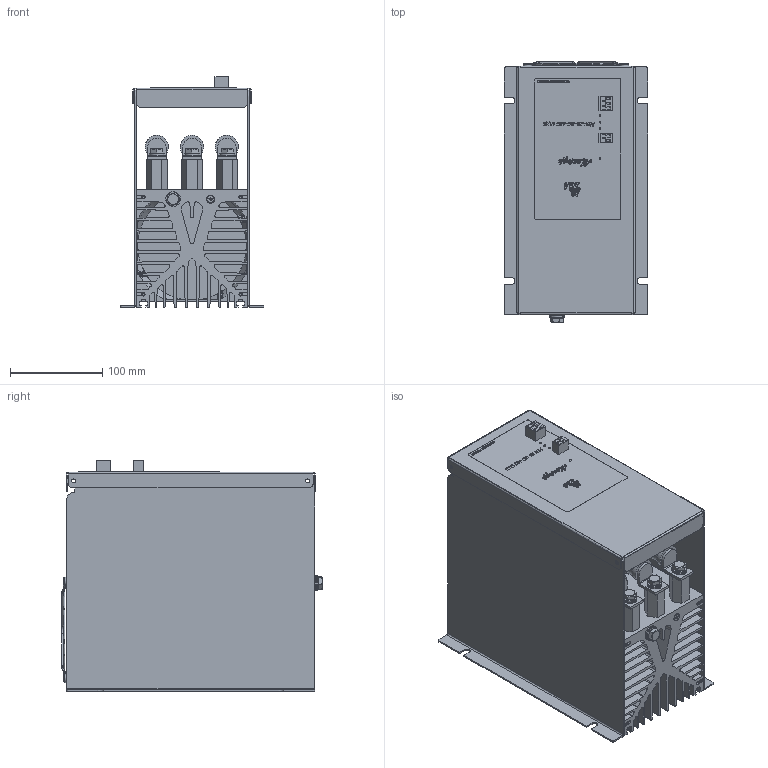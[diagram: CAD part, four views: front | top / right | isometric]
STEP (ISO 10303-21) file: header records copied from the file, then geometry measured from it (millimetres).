
FILE_DESCRIPTION(('STEP AP203'), '1');
FILE_NAME('ÌÒÊ-26-150-480 ÓÕË4', '2025-06-30T06:47:41', (''), ('ÎÎÎ "Ìåàíäð"'), 'C3D Converter', 'C3D Toolkit', '');
FILE_SCHEMA(('CONFIG_CONTROL_DESIGN'));
Length unit declared in the file: millimetre
Products named in the file (4): -МТК
Assembly tree (12 placements, depth 2):
  (unnamed)
    (unnamed)
    (unnamed)  x10
    -МТК
Bounding box: 155 x 281.99 x 249.4 mm (x, y, z)
Volume: 2494818.4 mm3; surface area: 1077594.8 mm2
Topology: 12 solids, 12 shells, 3941 faces, 11310 edges, 7460 vertices
Faces by surface type: plane 2198, extrusion 952, cylinder 661, cone 48, torus 44, bspline 34, sphere 4
Full cylindrical faces by diameter (mm): 1.8 x4, 4 x3, 4.2 x4, 4.572 x8, 6.1 x4, 8 x11, 8.4 x10, 8.7 x1, 9 x4, 11.6 x10, 16 x20, 21.5 x3, 25 x6, 117 x1, 118.662 x1
Entity records: 145982 total; most frequent: CARTESIAN_POINT 43392, ORIENTED_EDGE 20446, DIRECTION 15431, EDGE_CURVE 10223, VECTOR 7879, LINE 6927, VERTEX_POINT 6780, EDGE_LOOP 3823
